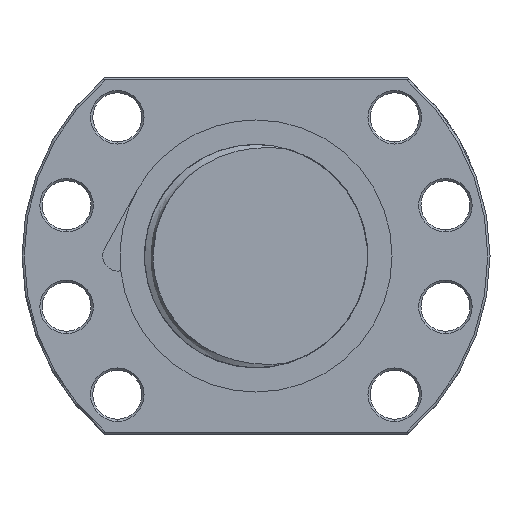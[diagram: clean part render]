
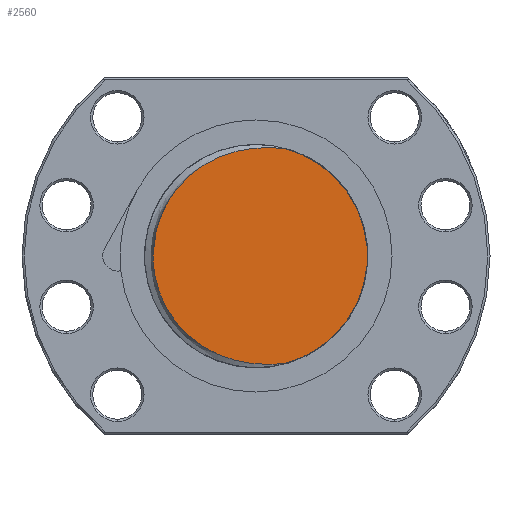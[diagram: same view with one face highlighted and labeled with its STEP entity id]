
A CAD part, left-side view. The second image highlights one B-rep face of the part: STEP entity #2560.
In plain terms, the highlighted planar face has unit normal (-1, 0, 0).
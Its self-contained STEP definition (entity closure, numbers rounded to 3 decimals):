
#2482 = EDGE_CURVE ( 'NONE', #2576, #2619, #27825, .T. ) ;
#2560 = ADVANCED_FACE ( 'NONE', ( #19254 ), #19251, .F. ) ;
#2561 = EDGE_LOOP ( 'NONE', ( #2562, #2563 ) ) ;
#2562 = ORIENTED_EDGE ( 'NONE', *, *, #2482, .F. ) ;
#2563 = ORIENTED_EDGE ( 'NONE', *, *, #2564, .T. ) ;
#2564 = EDGE_CURVE ( 'NONE', #2576, #2619, #19243, .T. ) ;
#2576 = VERTEX_POINT ( 'NONE', #16457 ) ;
#2619 = VERTEX_POINT ( 'NONE', #16542 ) ;
#16457 = CARTESIAN_POINT ( 'NONE',  ( -168., -6.427, 24.16 ) ) ;
#16542 = CARTESIAN_POINT ( 'NONE',  ( -168., -6.424, -24.161 ) ) ;
#19167 = CARTESIAN_POINT ( 'NONE',  ( -168., -6.424, -24.161 ) ) ;
#19168 = CARTESIAN_POINT ( 'NONE',  ( -168., -5.971, -24.173 ) ) ;
#19169 = CARTESIAN_POINT ( 'NONE',  ( -168., -5.519, -24.201 ) ) ;
#19170 = CARTESIAN_POINT ( 'NONE',  ( -168., -4.614, -24.249 ) ) ;
#19171 = CARTESIAN_POINT ( 'NONE',  ( -168., -4.161, -24.27 ) ) ;
#19172 = CARTESIAN_POINT ( 'NONE',  ( -168., -2.803, -24.311 ) ) ;
#19173 = CARTESIAN_POINT ( 'NONE',  ( -168., -1.897, -24.31 ) ) ;
#19174 = CARTESIAN_POINT ( 'NONE',  ( -168., -0.085, -24.224 ) ) ;
#19175 = CARTESIAN_POINT ( 'NONE',  ( -168., 0.818, -24.14 ) ) ;
#19176 = CARTESIAN_POINT ( 'NONE',  ( -168., 2.6, -23.887 ) ) ;
#19177 = CARTESIAN_POINT ( 'NONE',  ( -168., 3.48, -23.716 ) ) ;
#19178 = CARTESIAN_POINT ( 'NONE',  ( -168., 5.221, -23.287 ) ) ;
#19179 = CARTESIAN_POINT ( 'NONE',  ( -168., 6.082, -23.027 ) ) ;
#19180 = CARTESIAN_POINT ( 'NONE',  ( -168., 7.781, -22.415 ) ) ;
#19181 = CARTESIAN_POINT ( 'NONE',  ( -168., 8.622, -22.061 ) ) ;
#19182 = CARTESIAN_POINT ( 'NONE',  ( -168., 10.248, -21.27 ) ) ;
#19183 = CARTESIAN_POINT ( 'NONE',  ( -168., 11.036, -20.831 ) ) ;
#19184 = CARTESIAN_POINT ( 'NONE',  ( -168., 12.182, -20.11 ) ) ;
#19185 = CARTESIAN_POINT ( 'NONE',  ( -168., 12.558, -19.858 ) ) ;
#19186 = CARTESIAN_POINT ( 'NONE',  ( -168., 13.297, -19.334 ) ) ;
#19187 = CARTESIAN_POINT ( 'NONE',  ( -168., 13.661, -19.061 ) ) ;
#19188 = CARTESIAN_POINT ( 'NONE',  ( -168., 15.435, -17.65 ) ) ;
#19189 = CARTESIAN_POINT ( 'NONE',  ( -168., 16.707, -16.384 ) ) ;
#19190 = CARTESIAN_POINT ( 'NONE',  ( -168., 18.115, -14.629 ) ) ;
#19191 = CARTESIAN_POINT ( 'NONE',  ( -168., 18.388, -14.27 ) ) ;
#19192 = CARTESIAN_POINT ( 'NONE',  ( -168., 18.914, -13.534 ) ) ;
#19193 = CARTESIAN_POINT ( 'NONE',  ( -168., 19.168, -13.156 ) ) ;
#19194 = CARTESIAN_POINT ( 'NONE',  ( -168., 19.896, -12.007 ) ) ;
#19195 = CARTESIAN_POINT ( 'NONE',  ( -168., 20.333, -11.22 ) ) ;
#19196 = CARTESIAN_POINT ( 'NONE',  ( -168., 21.117, -9.605 ) ) ;
#19197 = CARTESIAN_POINT ( 'NONE',  ( -168., 21.462, -8.777 ) ) ;
#19198 = CARTESIAN_POINT ( 'NONE',  ( -168., 21.91, -7.504 ) ) ;
#19199 = CARTESIAN_POINT ( 'NONE',  ( -168., 22.048, -7.074 ) ) ;
#19200 = CARTESIAN_POINT ( 'NONE',  ( -168., 22.3, -6.205 ) ) ;
#19201 = CARTESIAN_POINT ( 'NONE',  ( -168., 22.415, -5.764 ) ) ;
#19202 = CARTESIAN_POINT ( 'NONE',  ( -168., 22.921, -3.556 ) ) ;
#19203 = CARTESIAN_POINT ( 'NONE',  ( -168., 23.121, -1.773 ) ) ;
#19204 = CARTESIAN_POINT ( 'NONE',  ( -168., 23.118, 0.477 ) ) ;
#19205 = CARTESIAN_POINT ( 'NONE',  ( -168., 23.104, 0.928 ) ) ;
#19206 = CARTESIAN_POINT ( 'NONE',  ( -168., 23.052, 1.832 ) ) ;
#19207 = CARTESIAN_POINT ( 'NONE',  ( -168., 23.013, 2.286 ) ) ;
#19208 = CARTESIAN_POINT ( 'NONE',  ( -168., 22.857, 3.636 ) ) ;
#19209 = CARTESIAN_POINT ( 'NONE',  ( -168., 22.703, 4.522 ) ) ;
#19210 = CARTESIAN_POINT ( 'NONE',  ( -168., 22.297, 6.27 ) ) ;
#19211 = CARTESIAN_POINT ( 'NONE',  ( -168., 22.045, 7.13 ) ) ;
#19212 = CARTESIAN_POINT ( 'NONE',  ( -168., 21.593, 8.402 ) ) ;
#19213 = CARTESIAN_POINT ( 'NONE',  ( -168., 21.43, 8.823 ) ) ;
#19214 = CARTESIAN_POINT ( 'NONE',  ( -168., 21.079, 9.657 ) ) ;
#19215 = CARTESIAN_POINT ( 'NONE',  ( -168., 20.891, 10.073 ) ) ;
#19216 = CARTESIAN_POINT ( 'NONE',  ( -168., 19.897, 12.107 ) ) ;
#19217 = CARTESIAN_POINT ( 'NONE',  ( -168., 18.932, 13.618 ) ) ;
#19218 = CARTESIAN_POINT ( 'NONE',  ( -168., 17.521, 15.367 ) ) ;
#19219 = CARTESIAN_POINT ( 'NONE',  ( -168., 17.229, 15.71 ) ) ;
#19220 = CARTESIAN_POINT ( 'NONE',  ( -168., 16.623, 16.381 ) ) ;
#19221 = CARTESIAN_POINT ( 'NONE',  ( -168., 16.308, 16.71 ) ) ;
#19222 = CARTESIAN_POINT ( 'NONE',  ( -168., 15.342, 17.667 ) ) ;
#19223 = CARTESIAN_POINT ( 'NONE',  ( -168., 14.668, 18.263 ) ) ;
#19224 = CARTESIAN_POINT ( 'NONE',  ( -168., 12.561, 19.931 ) ) ;
#19225 = CARTESIAN_POINT ( 'NONE',  ( -168., 11.044, 20.883 ) ) ;
#19226 = CARTESIAN_POINT ( 'NONE',  ( -168., 9.006, 21.874 ) ) ;
#19227 = CARTESIAN_POINT ( 'NONE',  ( -168., 8.591, 22.061 ) ) ;
#19228 = CARTESIAN_POINT ( 'NONE',  ( -168., 7.758, 22.412 ) ) ;
#19229 = CARTESIAN_POINT ( 'NONE',  ( -168., 7.339, 22.576 ) ) ;
#19230 = CARTESIAN_POINT ( 'NONE',  ( -168., 6.071, 23.032 ) ) ;
#19231 = CARTESIAN_POINT ( 'NONE',  ( -168., 5.213, 23.289 ) ) ;
#19232 = CARTESIAN_POINT ( 'NONE',  ( -168., 3.475, 23.717 ) ) ;
#19233 = CARTESIAN_POINT ( 'NONE',  ( -168., 2.594, 23.887 ) ) ;
#19234 = CARTESIAN_POINT ( 'NONE',  ( -168., 0.81, 24.141 ) ) ;
#19235 = CARTESIAN_POINT ( 'NONE',  ( -168., -0.097, 24.225 ) ) ;
#19236 = CARTESIAN_POINT ( 'NONE',  ( -168., -1.905, 24.311 ) ) ;
#19237 = CARTESIAN_POINT ( 'NONE',  ( -168., -2.81, 24.312 ) ) ;
#19238 = CARTESIAN_POINT ( 'NONE',  ( -168., -4.166, 24.27 ) ) ;
#19239 = CARTESIAN_POINT ( 'NONE',  ( -168., -4.618, 24.248 ) ) ;
#19240 = CARTESIAN_POINT ( 'NONE',  ( -168., -5.523, 24.2 ) ) ;
#19241 = CARTESIAN_POINT ( 'NONE',  ( -168., -5.975, 24.172 ) ) ;
#19242 = CARTESIAN_POINT ( 'NONE',  ( -168., -6.427, 24.16 ) ) ;
#19243 = B_SPLINE_CURVE_WITH_KNOTS ( 'NONE', 3,
 ( #19242, #19241, #19240, #19239, #19238, #19237, #19236, #19235, #19234, #19233, #19232, #19231, #19230, #19229, #19228, #19227, #19226, #19225, #19224, #19223, #19222, #19221, #19220, #19219, #19218, #19217, #19216, #19215, #19214, #19213, #19212, #19211, #19210, #19209, #19208, #19207, #19206, #19205, #19204, #19203, #19202, #19201, #19200, #19199, #19198, #19197, #19196, #19195, #19194, #19193, #19192, #19191, #19190, #19189, #19188, #19187, #19186, #19185, #19184, #19183, #19182, #19181, #19180, #19179, #19178, #19177, #19176, #19175, #19174, #19173, #19172, #19171, #19170, #19169, #19168, #19167 ),
 .UNSPECIFIED., .F., .F.,
 ( 4, 2, 2, 2, 2, 2, 2, 2, 2, 2, 2, 2, 2, 2, 2, 2, 2, 2, 2, 2, 2, 2, 2, 2, 2, 2, 2, 2, 2, 2, 2, 2, 2, 2, 2, 2, 2, 4 ),
 ( 0.003, 0.004, 0.006, 0.008, 0.011, 0.014, 0.016, 0.018, 0.019, 0.025, 0.027, 0.029, 0.03, 0.036, 0.037, 0.038, 0.041, 0.044, 0.045, 0.047, 0.052, 0.053, 0.055, 0.057, 0.06, 0.062, 0.063, 0.068, 0.07, 0.071, 0.074, 0.077, 0.079, 0.082, 0.085, 0.088, 0.089, 0.09 ),
 .UNSPECIFIED. ) ;
#19244 = DIRECTION ( 'NONE',  ( 0., 0., -1. ) ) ;
#19245 = DIRECTION ( 'NONE',  ( 1., 0., 0. ) ) ;
#19246 = CARTESIAN_POINT ( 'NONE',  ( -168., 0., 0. ) ) ;
#19251 = PLANE ( 'NONE',  #19253 ) ;
#19253 = AXIS2_PLACEMENT_3D ( 'NONE', #19246, #19245, #19244 ) ;
#19254 = FACE_OUTER_BOUND ( 'NONE', #2561, .T. ) ;
#27822 = DIRECTION ( 'NONE',  ( 0., 1., 0. ) ) ;
#27823 = DIRECTION ( 'NONE',  ( 1., 0., 0. ) ) ;
#27824 = AXIS2_PLACEMENT_3D ( 'NONE', #27831, #27823, #27822 ) ;
#27825 = CIRCLE ( 'NONE', #27824, 25. ) ;
#27831 = CARTESIAN_POINT ( 'NONE',  ( -168., 0., 0. ) ) ;
